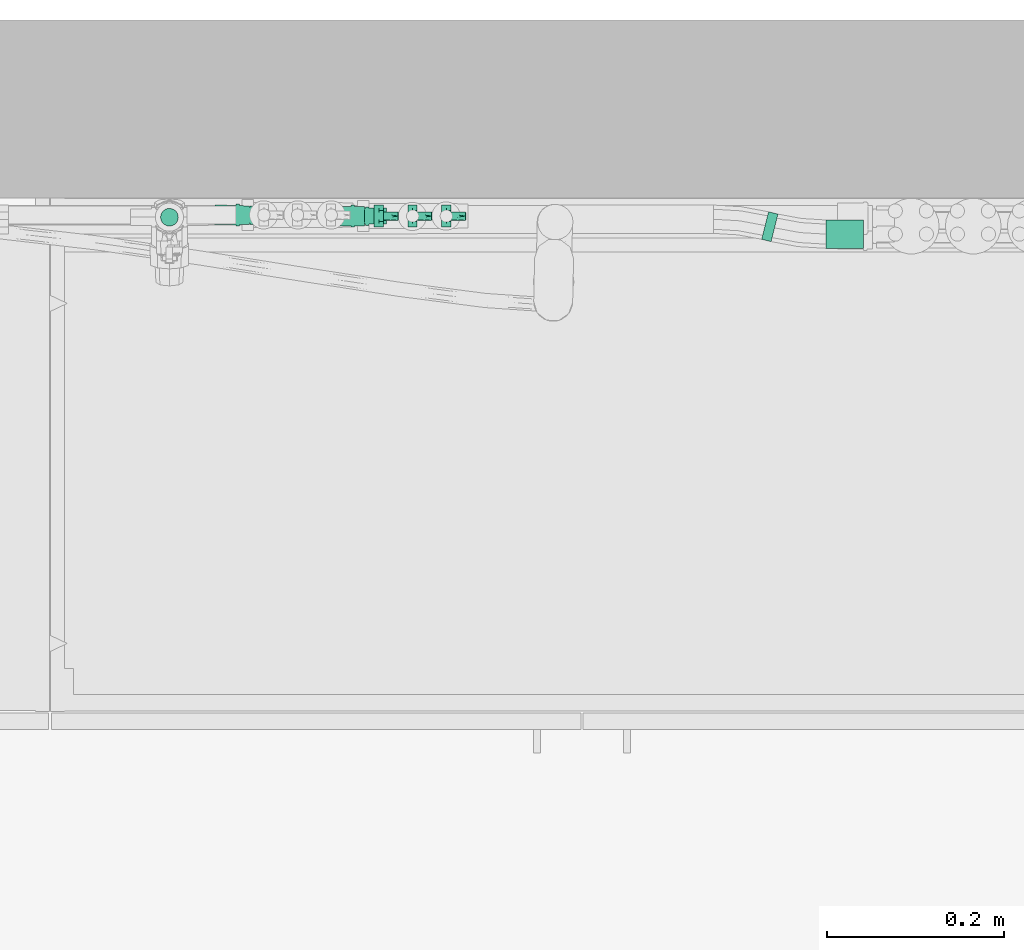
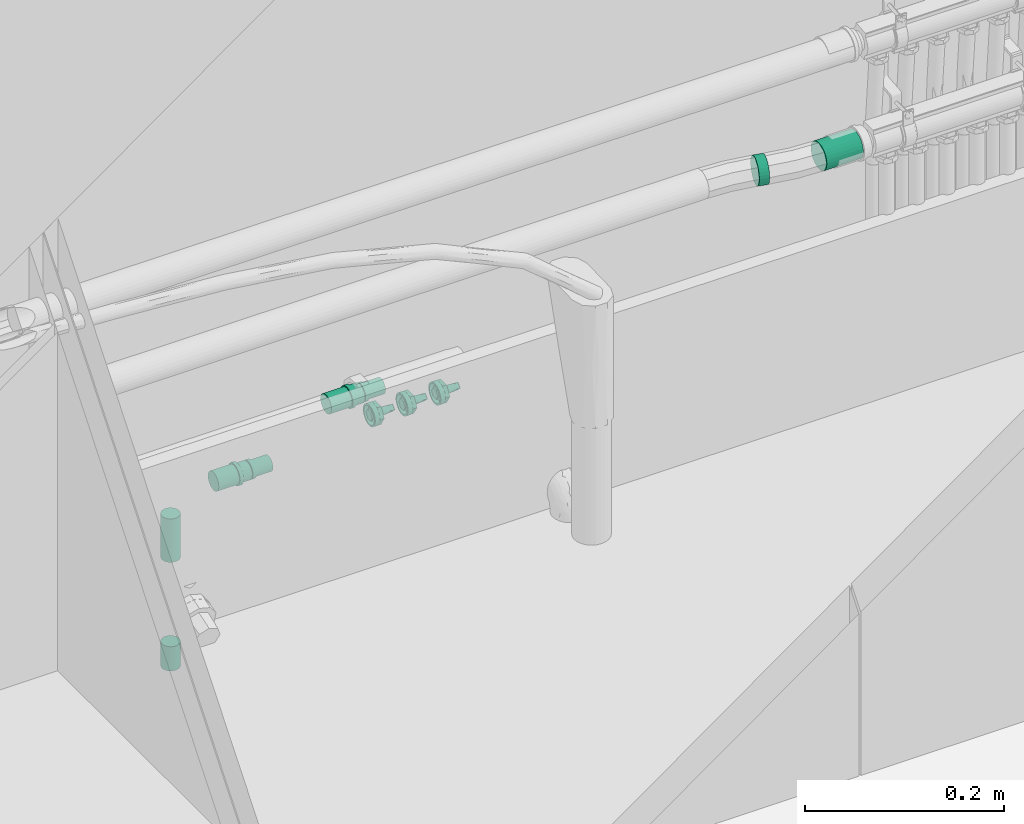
# One storey, part 23 of 30: 5 flow fittings, 4 flow segments.
"""IFC2X3 building model written with IfcOpenShell, lengths in metres."""

from ifc_helpers import new_model, entity, si_unit, converted_unit, derived_unit, direction, frame, frame_2d, origin, origin_2d_with_axis, place, context, subcontext, project, spatial, circle, extrude, faceted_brep, source, transform, mapped, material, material_list, type_object, type_shapes, element, save


model = new_model("IFC2X3")

# Units and contexts
model_context = context("Model", 3, precision=1e-05, world=origin(), true_north=direction((6.123031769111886e-17, 1.0)))
body_context = subcontext(model_context, "Body", "Model", "MODEL_VIEW")
ifc_project = project(units=[si_unit("LENGTHUNIT", "METRE"), si_unit("AREAUNIT", "SQUARE_METRE"), si_unit("VOLUMEUNIT", "CUBIC_METRE"), converted_unit("PLANEANGLEUNIT", "DEGREE", entity("IfcPlaneAngleMeasure", 0.017453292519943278), si_unit("PLANEANGLEUNIT", "RADIAN"), dimensions=[0, 0, 0, 0, 0, 0, 0]), si_unit("MASSUNIT", "GRAM", prefix="KILO"), derived_unit("MASSDENSITYUNIT", [(si_unit("MASSUNIT", "GRAM", prefix="KILO"), 1), (si_unit("LENGTHUNIT", "METRE"), -3)]), derived_unit("IONCONCENTRATIONUNIT", [(si_unit("MASSUNIT", "GRAM", prefix="KILO"), 1), (si_unit("LENGTHUNIT", "METRE"), -3)]), derived_unit("MOMENTOFINERTIAUNIT", [(si_unit("LENGTHUNIT", "METRE"), 4)]), si_unit("TIMEUNIT", "SECOND"), si_unit("FREQUENCYUNIT", "HERTZ"), si_unit("THERMODYNAMICTEMPERATUREUNIT", "DEGREE_CELSIUS"), derived_unit("THERMALTRANSMITTANCEUNIT", [(si_unit("MASSUNIT", "GRAM", prefix="KILO"), 1), (si_unit("THERMODYNAMICTEMPERATUREUNIT", "KELVIN"), -1), (si_unit("TIMEUNIT", "SECOND"), -3)]), derived_unit("THERMALCONDUCTANCEUNIT", [(si_unit("MASSUNIT", "GRAM", prefix="KILO"), 1), (si_unit("THERMODYNAMICTEMPERATUREUNIT", "KELVIN"), -1), (si_unit("TIMEUNIT", "SECOND"), -3), (si_unit("LENGTHUNIT", "METRE"), 1)]), derived_unit("VOLUMETRICFLOWRATEUNIT", [(si_unit("LENGTHUNIT", "METRE", prefix="DECI"), 3), (si_unit("TIMEUNIT", "SECOND"), -1)]), derived_unit("MASSFLOWRATEUNIT", [(si_unit("MASSUNIT", "GRAM", prefix="KILO"), 1), (si_unit("TIMEUNIT", "SECOND"), -1)]), derived_unit("ROTATIONALFREQUENCYUNIT", [(si_unit("TIMEUNIT", "SECOND"), -1)]), si_unit("ELECTRICCURRENTUNIT", "AMPERE"), si_unit("ELECTRICVOLTAGEUNIT", "VOLT"), si_unit("POWERUNIT", "WATT"), si_unit("FORCEUNIT", "NEWTON", prefix="KILO"), si_unit("ILLUMINANCEUNIT", "LUX"), si_unit("LUMINOUSFLUXUNIT", "LUMEN"), si_unit("LUMINOUSINTENSITYUNIT", "CANDELA"), si_unit("ENERGYUNIT", "JOULE"), derived_unit("USERDEFINED", [(si_unit("MASSUNIT", "GRAM", prefix="KILO"), -1), (si_unit("LENGTHUNIT", "METRE"), -2), (si_unit("TIMEUNIT", "SECOND"), 3), (si_unit("LUMINOUSFLUXUNIT", "LUMEN"), 1)]), derived_unit("USERDEFINED", [(si_unit("MASSUNIT", "GRAM", prefix="KILO"), 1), (si_unit("TIMEUNIT", "SECOND"), -3), (si_unit("LENGTHUNIT", "METRE"), 3), (si_unit("ELECTRICCURRENTUNIT", "AMPERE"), -2)]), derived_unit("SOUNDPOWERUNIT", [(si_unit("MASSUNIT", "GRAM", prefix="KILO"), 1), (si_unit("TIMEUNIT", "SECOND"), -3), (si_unit("LENGTHUNIT", "METRE"), 2)]), derived_unit("SOUNDPRESSUREUNIT", [(si_unit("MASSUNIT", "GRAM", prefix="KILO"), 1), (si_unit("LENGTHUNIT", "METRE"), -1), (si_unit("TIMEUNIT", "SECOND"), -2)]), derived_unit("LINEARVELOCITYUNIT", [(si_unit("LENGTHUNIT", "METRE"), 1), (si_unit("TIMEUNIT", "SECOND"), -1)]), si_unit("PRESSUREUNIT", "PASCAL"), derived_unit("USERDEFINED", [(si_unit("MASSUNIT", "GRAM", prefix="KILO"), 1), (si_unit("LENGTHUNIT", "METRE"), -2), (si_unit("TIMEUNIT", "SECOND"), -2)]), derived_unit("LINEARFORCEUNIT", [(si_unit("MASSUNIT", "GRAM", prefix="KILO"), 1), (si_unit("TIMEUNIT", "SECOND"), -2)]), derived_unit("PLANARFORCEUNIT", [(si_unit("MASSUNIT", "GRAM", prefix="KILO"), 1), (si_unit("LENGTHUNIT", "METRE"), -1), (si_unit("TIMEUNIT", "SECOND"), -2)]), derived_unit("SPECIFICHEATCAPACITYUNIT", [(si_unit("THERMODYNAMICTEMPERATUREUNIT", "KELVIN"), -1), (si_unit("LENGTHUNIT", "METRE"), 2), (si_unit("TIMEUNIT", "SECOND"), -2)]), derived_unit("HEATFLUXDENSITYUNIT", [(si_unit("MASSUNIT", "GRAM", prefix="KILO"), 1), (si_unit("TIMEUNIT", "SECOND"), -3)]), derived_unit("HEATINGVALUEUNIT", [(si_unit("LENGTHUNIT", "METRE"), 2), (si_unit("TIMEUNIT", "SECOND"), -2)]), derived_unit("VAPORPERMEABILITYUNIT", [(si_unit("LENGTHUNIT", "METRE"), -1), (si_unit("TIMEUNIT", "SECOND"), 1)]), derived_unit("DYNAMICVISCOSITYUNIT", [(si_unit("MASSUNIT", "GRAM", prefix="KILO"), 1), (si_unit("TIMEUNIT", "SECOND"), -1), (si_unit("LENGTHUNIT", "METRE"), -1)]), derived_unit("THERMALEXPANSIONCOEFFICIENTUNIT", [(si_unit("THERMODYNAMICTEMPERATUREUNIT", "KELVIN"), -1)]), derived_unit("MODULUSOFELASTICITYUNIT", [(si_unit("MASSUNIT", "GRAM", prefix="KILO"), 1), (si_unit("LENGTHUNIT", "METRE"), -1), (si_unit("TIMEUNIT", "SECOND"), -2)]), derived_unit("ISOTHERMALMOISTURECAPACITYUNIT", [(si_unit("MASSUNIT", "GRAM", prefix="KILO"), -1), (si_unit("LENGTHUNIT", "METRE"), 3)]), derived_unit("MOISTUREDIFFUSIVITYUNIT", [(si_unit("TIMEUNIT", "SECOND"), -1), (si_unit("LENGTHUNIT", "METRE"), 2)]), derived_unit("MASSPERLENGTHUNIT", [(si_unit("MASSUNIT", "GRAM", prefix="KILO"), 1), (si_unit("LENGTHUNIT", "METRE"), -1)]), derived_unit("THERMALRESISTANCEUNIT", [(si_unit("MASSUNIT", "GRAM", prefix="KILO"), -1), (si_unit("TIMEUNIT", "SECOND"), 3), (si_unit("THERMODYNAMICTEMPERATUREUNIT", "KELVIN"), 1)]), derived_unit("ACCELERATIONUNIT", [(si_unit("LENGTHUNIT", "METRE"), 1), (si_unit("TIMEUNIT", "SECOND"), -2)]), derived_unit("ANGULARVELOCITYUNIT", [(si_unit("TIMEUNIT", "SECOND"), -1), (si_unit("PLANEANGLEUNIT", "RADIAN"), 1)]), derived_unit("LINEARSTIFFNESSUNIT", [(si_unit("MASSUNIT", "GRAM", prefix="KILO"), 1), (si_unit("TIMEUNIT", "SECOND"), -2)]), derived_unit("WARPINGCONSTANTUNIT", [(si_unit("LENGTHUNIT", "METRE"), 6)]), derived_unit("LINEARMOMENTUNIT", [(si_unit("MASSUNIT", "GRAM", prefix="KILO"), 1), (si_unit("LENGTHUNIT", "METRE"), 1), (si_unit("TIMEUNIT", "SECOND"), -2)]), derived_unit("TORQUEUNIT", [(si_unit("MASSUNIT", "GRAM", prefix="KILO"), 1), (si_unit("LENGTHUNIT", "METRE"), 2), (si_unit("TIMEUNIT", "SECOND"), -2)])], contexts=[model_context])

# Site, building, storey
site_placement = place(None, origin())
site = spatial("IfcSite", under=ifc_project, at=site_placement, Name="Default", CompositionType="ELEMENT")
building_placement = place(site_placement, origin())
building = spatial("IfcBuilding", under=site, at=building_placement, CompositionType="ELEMENT")
storey_placement = place(building_placement, origin())
storey = spatial("IfcBuildingStorey", under=building, at=storey_placement, Name="Niveau 0", CompositionType="ELEMENT", Elevation=-1.949160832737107e-14)

# Flow segments
pipe_segment_type = type_object("IfcPipeSegmentType", Name="Canalisation:COMAP MULTISKIN - SKINPRESS PPSU", PredefinedType="NOTDEFINED")
flow_segment_1_placement = place(storey_placement, origin())
element("IfcFlowSegment", 1, at=flow_segment_1_placement, inside=storey, type_object=pipe_segment_type, Name="Canalisation:COMAP MULTISKIN - SKINPRESS PPSU", ObjectType="Canalisation:COMAP MULTISKIN - SKINPRESS PPSU", context=body_context, shape_type="SweptSolid", body=[
    extrude(circle(Radius=0.01, at=origin_2d_with_axis()), frame((-19.271248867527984, 2.846796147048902, 0.09350000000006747)), (0.0, 0.0, 1.0), 0.029749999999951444),
])
flow_segment_2_placement = place(storey_placement, origin())
element("IfcFlowSegment", 2, at=flow_segment_2_placement, inside=storey, type_object=pipe_segment_type, Name="Canalisation:COMAP MULTISKIN - SKINPRESS PPSU", ObjectType="Canalisation:COMAP MULTISKIN - SKINPRESS PPSU", context=body_context, shape_type="SweptSolid", body=[
    extrude(circle(Radius=0.01, at=origin_2d_with_axis()), frame((-19.271248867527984, 2.846796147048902, 0.2267500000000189)), (0.0, 0.0, 1.0), 0.0532499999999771),
])
flow_segment_3_placement = place(storey_placement, origin())
element("IfcFlowSegment", 3, at=flow_segment_3_placement, inside=storey, type_object=pipe_segment_type, Name="Canalisation:COMAP MULTISKIN - SKINPRESS PPSU", ObjectType="Canalisation:COMAP MULTISKIN - SKINPRESS PPSU", context=body_context, shape_type="SweptSolid", body=[
    extrude(circle(Radius=0.016, at=frame_2d((3.2486013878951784e-15, 0.0), x_axis=(1.0, 0.0))), frame((-18.52999867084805, 2.8277041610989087, 0.4705625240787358), z_axis=(1.0, 0.0, 0.0), x_axis=(0.0, 1.0, 0.0)), (0.0, 0.0, 1.0), 0.04245753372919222),
])
flow_segment_4_placement = place(storey_placement, origin())
element("IfcFlowSegment", 4, at=flow_segment_4_placement, inside=storey, type_object=pipe_segment_type, Name="Canalisation:COMAP MULTISKIN - SKINPRESS PPSU", ObjectType="Canalisation:COMAP MULTISKIN - SKINPRESS PPSU", context=body_context, shape_type="SweptSolid", body=[
    extrude(circle(Radius=0.016, at=origin_2d_with_axis()), frame((-18.58794148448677, 2.834803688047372, 0.4705625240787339), z_axis=(-0.9704186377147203, 0.2414283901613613, 0.0), x_axis=(0.2414283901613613, 0.9704186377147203, 0.0)), (0.0, 0.0, 1.0), 0.01089291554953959),
])

# Flow fittings
ifc_material_1 = material(Name="Color RGB 202-154-058")
pipe_fitting_type_1 = type_object("IfcPipeFittingType", Name="SA_Connection Piece_MEPcontent_Valsir_Pexal BRASS_Kit with Nut_Shared:14 mm x 2 mm-1/2''", PredefinedType="NOTDEFINED", material=ifc_material_1)
shared_shape_1 = source(origin(), body_context, "Body", "Brep", [
    faceted_brep([(0.0, 0.012144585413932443, -0.0032541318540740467), (0.0, 0.0125345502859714, 0.0), (0.0, 0.006267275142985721, -0.010855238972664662), (0.0, 0.008890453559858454, -0.008890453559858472), (0.0, 0.010888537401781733, -0.00628650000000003), (0.0, 0.003882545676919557, 0.0119585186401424), (0.0, 0.0013113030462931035, 0.012504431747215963), (0.0, -0.0013169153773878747, 0.012503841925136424), (0.0, -0.0038867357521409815, 0.01195715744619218), (0.0, -0.0062672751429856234, 0.010855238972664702), (0.0, 0.006267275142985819, 0.010855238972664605), (0.0, -0.006267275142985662, -0.010855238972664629), (0.0, -0.012573, 0.0), (0.0, -0.01229757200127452, -0.002617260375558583), (0.0, -0.011484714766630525, -0.005116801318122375), (0.0, -0.010170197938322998, -0.007392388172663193), (0.0, -0.008411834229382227, -0.009344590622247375), (0.0, 0.00889045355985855, 0.008890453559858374), (0.0, 0.012144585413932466, 0.0032541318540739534), (0.0, 0.01088853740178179, 0.006286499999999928), (0.0, -0.0038867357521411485, -0.011957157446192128), (0.0, -0.001316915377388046, -0.012503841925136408), (0.0, 0.0013113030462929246, -0.012504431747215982), (0.0, 0.003882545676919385, -0.011958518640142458), (0.0, -0.008411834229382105, 0.009344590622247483), (0.0, -0.010170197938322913, 0.007392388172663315), (0.0, -0.01148471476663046, 0.005116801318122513), (0.0, -0.01229757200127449, 0.0026172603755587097), (0.004999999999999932, 0.006267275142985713, -0.010855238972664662), (0.004999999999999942, 0.012534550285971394, 0.0), (0.004999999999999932, 0.0062672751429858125, 0.010855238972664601), (0.00499999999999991, -0.006267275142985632, 0.010855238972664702), (0.0049999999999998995, -0.01253455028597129, 0.0), (0.00499999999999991, -0.006267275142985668, -0.010855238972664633), (0.0, -0.009223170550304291, 0.005324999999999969), (0.0, -0.00753068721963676, 0.007530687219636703), (0.0, -0.008149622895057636, 0.004705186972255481), (0.0, -0.009089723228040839, 0.0024355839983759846), (0.0, -0.010287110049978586, 0.0027564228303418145), (0.0, -0.006654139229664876, 0.006654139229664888), (0.0, -0.005325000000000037, 0.00922317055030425), (0.0, -0.004705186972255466, 0.008149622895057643), (0.0, -0.0024355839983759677, 0.009089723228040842), (0.0, -0.0027564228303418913, 0.010287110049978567), (0.0, 0.0, 0.009410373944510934), (0.0, 0.0, 0.010650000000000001), (0.0, 0.0024355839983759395, 0.009089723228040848), (0.0, 0.002756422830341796, 0.010287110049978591), (0.0, 0.004705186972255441, 0.008149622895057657), (0.0, 0.005324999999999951, 0.0092231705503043), (0.0, 0.006654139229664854, 0.006654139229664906), (0.0, 0.007530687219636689, 0.0075306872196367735), (0.0, 0.008149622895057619, 0.0047051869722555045), (0.0, 0.00922317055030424, 0.0053250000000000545), (0.0, 0.009089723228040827, 0.0024355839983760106), (0.0, 0.01028711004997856, 0.0027564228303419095), (0.0, 0.009410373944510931, 0.0), (0.0, 0.010649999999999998, 0.0), (0.0, 0.00908972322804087, -0.002435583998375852), (0.0, 0.010287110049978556, -0.0027564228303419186), (0.0, 0.008149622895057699, -0.004705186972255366), (0.0, 0.009223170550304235, -0.005325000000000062), (0.0, 0.006654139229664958, -0.006654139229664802), (0.0, 0.007530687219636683, -0.00753068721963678), (0.0, 0.004705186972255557, -0.00814962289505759), (0.0, 0.0053249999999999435, -0.009223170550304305), (0.0, 0.0027564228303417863, -0.010287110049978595), (0.0, 0.002435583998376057, -0.009089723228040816), (0.0, 0.0, -0.010650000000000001), (0.0, 0.0, -0.009410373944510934), (0.0, -0.0027564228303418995, -0.010287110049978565), (0.0, -0.0024355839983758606, -0.00908972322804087), (0.0, -0.005325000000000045, -0.009223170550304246), (0.0, -0.004705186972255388, -0.008149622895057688), (0.0, -0.0075306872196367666, -0.007530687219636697), (0.0, -0.006654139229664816, -0.006654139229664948), (0.0, -0.009223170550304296, -0.005324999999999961), (0.0, -0.008149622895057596, -0.004705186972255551), (0.0, -0.01028711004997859, -0.0027564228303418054), (0.0, -0.009089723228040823, -0.002435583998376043), (0.0, -0.010650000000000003, 0.0), (0.0, -0.009410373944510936, 0.0), (0.004999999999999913, -0.004156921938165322, -0.002400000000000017), (0.0049999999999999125, -0.004636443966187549, -0.001242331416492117), (0.0049999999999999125, -0.004800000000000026, 0.0), (0.0049999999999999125, -0.004636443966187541, 0.0012423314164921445), (0.004999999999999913, -0.0041569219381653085, 0.0024000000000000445), (0.004999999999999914, -0.003394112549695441, -0.0033941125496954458), (0.004999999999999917, -0.002400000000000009, -0.004156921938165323), (0.004999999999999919, -0.0012423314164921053, -0.004636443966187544), (0.004999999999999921, 0.0, -0.004800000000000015), (0.004999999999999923, 0.001242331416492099, -0.004636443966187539), (0.004999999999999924, 0.002400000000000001, -0.0041569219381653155), (0.004999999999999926, 0.00339411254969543, -0.003394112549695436), (0.004999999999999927, 0.0041569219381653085, -0.0024000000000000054), (0.004999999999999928, 0.004636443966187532, -0.0012423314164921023), (0.004999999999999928, 0.004800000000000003, 0.0), (0.004999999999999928, 0.004636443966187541, 0.0012423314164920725), (0.004999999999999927, 0.004156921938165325, 0.002399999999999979), (0.004999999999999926, 0.003394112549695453, 0.003394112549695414), (0.004999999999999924, 0.002400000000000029, 0.004156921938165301), (0.004999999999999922, 0.0012423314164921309, 0.004636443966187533), (0.0049999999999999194, 0.0, 0.004800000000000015), (0.004999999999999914, -0.003394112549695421, 0.003394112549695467), (0.004999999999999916, -0.002399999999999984, 0.004156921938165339), (0.004999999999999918, -0.001242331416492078, 0.004636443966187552), (0.021999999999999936, 0.0, 0.0), (0.021999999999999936, -0.004225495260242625, 0.0), (0.021999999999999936, -0.002112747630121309, -0.0021127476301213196), (0.021999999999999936, 0.0, -0.004225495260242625), (0.021999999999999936, 0.001462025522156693, -0.0027634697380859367), (0.021999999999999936, 0.004225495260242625, 0.0), (0.02199999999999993, 0.002112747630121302, 0.0021127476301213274), (0.021999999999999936, -0.0014620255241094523, 0.0027634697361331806), (0.021999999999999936, 0.0, 0.004225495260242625), (0.021425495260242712, 0.004800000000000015, 0.0), (0.021425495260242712, 0.002400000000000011, -0.0024000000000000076), (0.021425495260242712, 0.0, -0.004800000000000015), (0.021425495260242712, -0.0024000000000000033, -0.002400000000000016), (0.021425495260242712, -0.004800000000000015, 0.0), (0.021425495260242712, -0.0024000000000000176, 0.0024000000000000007), (0.021425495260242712, 0.0, 0.004800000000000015), (0.021425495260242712, 0.0023999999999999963, 0.0024000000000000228), (-0.0017731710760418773, 0.009410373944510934, 0.0), (-0.0017731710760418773, 0.004705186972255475, -0.008149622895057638), (-0.0017731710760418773, -0.004705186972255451, -0.008149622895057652), (-0.0017731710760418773, -0.009410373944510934, 0.0), (-0.0017731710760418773, -0.004705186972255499, 0.008149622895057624), (-0.0017731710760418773, 0.004705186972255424, 0.008149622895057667), (-0.005500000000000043, -0.0031499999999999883, -0.00545596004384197), (-0.005500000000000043, -0.0063, 0.0), (-0.005500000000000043, 0.0, 0.0), (-0.005500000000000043, 0.0031500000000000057, -0.00545596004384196), (-0.005500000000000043, -0.003150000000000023, 0.005455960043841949), (-0.005500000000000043, 0.00314999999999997, 0.005455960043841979), (-0.005500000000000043, 0.0063, 0.0), (-0.005500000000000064, -0.006286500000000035, -0.010888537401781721), (-0.005500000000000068, -0.008890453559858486, -0.00889045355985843), (-0.005500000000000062, -0.005324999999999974, -0.009223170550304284), (-0.005500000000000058, -0.002756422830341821, -0.010287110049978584), (-0.005500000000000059, -0.003254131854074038, -0.012144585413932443), (-0.0055000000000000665, -0.007530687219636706, -0.007530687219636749), (-0.005500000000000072, -0.010888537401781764, -0.006286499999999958), (-0.005500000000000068, -0.00922317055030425, -0.005325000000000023), (-0.005500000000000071, -0.010287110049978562, -0.0027564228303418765), (-0.005500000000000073, -0.012144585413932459, -0.0032541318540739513), (-0.005500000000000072, -0.010649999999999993, 0.0), (-0.005500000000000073, -0.012572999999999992, 0.0), (-0.005500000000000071, -0.010287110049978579, 0.00275642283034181), (-0.005500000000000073, -0.012144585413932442, 0.0032541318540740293), (-0.005500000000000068, -0.009223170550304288, 0.005324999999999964), (-0.005500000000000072, -0.010888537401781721, 0.006286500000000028), (-0.0055000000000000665, -0.007530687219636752, 0.007530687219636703), (-0.005500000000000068, -0.008890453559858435, 0.008890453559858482), (-0.005500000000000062, -0.0053250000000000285, 0.00922317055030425), (-0.005500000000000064, -0.00628649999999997, 0.010888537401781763), (-0.005500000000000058, -0.002756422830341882, 0.010287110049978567), (-0.005500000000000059, -0.003254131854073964, 0.012144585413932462), (-0.0055000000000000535, 0.0, 0.010650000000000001), (-0.0055000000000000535, 0.0, 0.012573), (-0.005500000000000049, 0.002756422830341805, 0.010287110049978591), (-0.005500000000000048, 0.003254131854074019, 0.012144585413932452), (-0.005500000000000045, 0.00532499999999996, 0.0092231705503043), (-0.005500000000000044, 0.00628650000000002, 0.010888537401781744), (-0.005500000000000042, 0.007530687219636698, 0.0075306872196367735), (-0.00550000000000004, 0.008890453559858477, 0.008890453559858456), (-0.005500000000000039, 0.00922317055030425, 0.0053250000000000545), (-0.005500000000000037, 0.010888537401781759, 0.006286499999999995), (-0.005500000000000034, 0.012144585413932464, 0.0032541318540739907), (-0.005500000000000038, 0.010287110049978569, 0.0027564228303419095), (-0.0055000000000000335, 0.01257300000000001, 0.0), (-0.005500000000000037, 0.010650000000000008, 0.0), (-0.005500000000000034, 0.012144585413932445, -0.0032541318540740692), (-0.005500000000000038, 0.010287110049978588, -0.0027564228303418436), (-0.005500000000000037, 0.01088853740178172, -0.0062865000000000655), (-0.005500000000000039, 0.009223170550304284, -0.005324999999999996), (-0.00550000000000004, 0.008890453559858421, -0.008890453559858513), (-0.005500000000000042, 0.007530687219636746, -0.007530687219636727), (-0.005500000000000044, 0.006286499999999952, -0.010888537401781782), (-0.005500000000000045, 0.005325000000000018, -0.009223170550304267), (-0.005500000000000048, 0.0032541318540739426, -0.012144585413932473), (-0.005500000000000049, 0.0027564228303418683, -0.010287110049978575), (-0.0055000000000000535, 0.0, -0.012573), (-0.0055000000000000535, 0.0, -0.010650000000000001), (-0.003958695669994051, 0.0031500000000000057, -0.00545596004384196), (-0.003958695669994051, 0.0063, 0.0), (-0.003958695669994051, -0.0031499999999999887, -0.00545596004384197), (-0.003958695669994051, -0.0063, 0.0), (-0.003958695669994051, -0.0031500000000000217, 0.00545596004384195), (-0.003958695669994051, 0.0031499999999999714, 0.00545596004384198)], [[[0, 1, 2, 3, 4]], [[5, 6, 7, 8, 9, 10]], [[11, 12, 13, 14, 15, 16]], [[17, 10, 1, 18, 19]], [[2, 11, 20, 21, 22, 23]], [[9, 24, 25, 26, 27, 12]], [[28, 2, 1, 29]], [[29, 1, 10, 30]], [[30, 10, 9, 31]], [[31, 9, 12]], [[12, 32, 31]], [[32, 12, 11]], [[11, 33, 32]], [[34, 35, 36]], [[34, 36, 37]], [[37, 38, 34]], [[36, 35, 39]], [[40, 39, 35]], [[41, 39, 40]], [[42, 41, 40]], [[42, 40, 43]], [[42, 43, 44]], [[44, 43, 45]], [[46, 44, 45]], [[46, 45, 47]], [[48, 46, 47]], [[48, 47, 49]], [[50, 48, 49]], [[49, 51, 50]], [[51, 52, 50]], [[51, 53, 52]], [[52, 53, 54]], [[55, 54, 53]], [[54, 55, 56]], [[56, 55, 57]], [[56, 57, 58]], [[58, 57, 59]], [[58, 59, 60]], [[61, 60, 59]], [[61, 62, 60]], [[62, 61, 63]], [[64, 62, 63]], [[65, 64, 63]], [[66, 64, 65]], [[67, 64, 66]], [[67, 66, 68]], [[69, 67, 68]], [[70, 69, 68]], [[70, 71, 69]], [[71, 70, 72]], [[73, 71, 72]], [[73, 72, 74]], [[73, 74, 75]], [[74, 76, 75]], [[75, 76, 77]], [[77, 76, 78]], [[78, 79, 77]], [[80, 79, 78]], [[38, 81, 80]], [[80, 81, 79]], [[38, 37, 81]], [[33, 11, 2, 28]], [[32, 33, 82]], [[32, 82, 83]], [[84, 32, 83]], [[32, 84, 85]], [[86, 32, 85]], [[32, 86, 31]], [[82, 33, 87]], [[88, 87, 33]], [[89, 88, 33]], [[90, 89, 33]], [[33, 28, 90]], [[91, 90, 28]], [[92, 91, 28]], [[93, 92, 28]], [[28, 94, 93]], [[29, 94, 28]], [[95, 94, 29]], [[29, 96, 95]], [[29, 97, 96]], [[97, 29, 98]], [[30, 98, 29]], [[98, 30, 99]], [[100, 99, 30]], [[100, 30, 101]], [[102, 101, 30]], [[102, 30, 31]], [[86, 103, 31]], [[103, 104, 31]], [[104, 105, 31]], [[31, 105, 102]], [[106, 107, 108]], [[106, 108, 109]], [[106, 109, 110]], [[106, 110, 111]], [[106, 111, 112]], [[106, 113, 107]], [[106, 114, 113]], [[106, 112, 114]], [[96, 115, 95]], [[93, 115, 116, 117]], [[115, 94, 95]], [[93, 94, 115]], [[91, 92, 117]], [[93, 117, 92]], [[117, 90, 91]], [[90, 117, 89]], [[117, 87, 88]], [[88, 89, 117]], [[87, 117, 118, 119]], [[82, 87, 119]], [[84, 83, 119]], [[82, 119, 83]], [[84, 119, 85]], [[103, 119, 120, 121]], [[119, 86, 85]], [[103, 86, 119]], [[105, 104, 121]], [[103, 121, 104]], [[121, 102, 105]], [[102, 121, 101]], [[121, 99, 100]], [[100, 101, 121]], [[99, 121, 122, 115]], [[98, 99, 115]], [[96, 97, 115]], [[98, 115, 97]], [[123, 56, 58]], [[58, 60, 123]], [[62, 124, 60]], [[60, 124, 123]], [[124, 62, 64]], [[124, 67, 69]], [[67, 124, 64]], [[125, 69, 71]], [[71, 73, 125]], [[75, 125, 73]], [[125, 77, 126]], [[77, 125, 75]], [[79, 81, 126]], [[79, 126, 77]], [[69, 125, 124]], [[126, 81, 37]], [[37, 36, 126]], [[39, 127, 36]], [[36, 127, 126]], [[127, 39, 41]], [[127, 42, 44]], [[42, 127, 41]], [[128, 44, 46]], [[46, 48, 128]], [[50, 128, 48]], [[128, 52, 123]], [[52, 128, 50]], [[54, 56, 123]], [[54, 123, 52]], [[44, 128, 127]], [[129, 130, 131]], [[131, 132, 129]], [[130, 133, 131]], [[134, 131, 133]], [[131, 134, 135]], [[131, 135, 132]], [[129, 130, 131]], [[131, 132, 129]], [[130, 133, 131]], [[134, 131, 133]], [[131, 134, 135]], [[131, 135, 132]], [[136, 137, 138]], [[136, 138, 139]], [[139, 140, 136]], [[138, 137, 141]], [[142, 141, 137]], [[143, 141, 142]], [[144, 143, 142]], [[144, 142, 145]], [[144, 145, 146]], [[146, 145, 147]], [[148, 146, 147]], [[148, 147, 149]], [[150, 148, 149]], [[150, 149, 151]], [[152, 150, 151]], [[151, 153, 152]], [[153, 154, 152]], [[153, 155, 154]], [[154, 155, 156]], [[157, 156, 155]], [[156, 157, 158]], [[158, 157, 159]], [[158, 159, 160]], [[160, 159, 161]], [[160, 161, 162]], [[163, 162, 161]], [[163, 164, 162]], [[164, 163, 165]], [[166, 164, 165]], [[167, 166, 165]], [[168, 166, 167]], [[169, 166, 168]], [[169, 168, 170]], [[171, 169, 170]], [[172, 171, 170]], [[172, 173, 171]], [[173, 172, 174]], [[175, 173, 174]], [[175, 174, 176]], [[175, 176, 177]], [[176, 178, 177]], [[177, 178, 179]], [[179, 178, 180]], [[180, 181, 179]], [[182, 181, 180]], [[140, 183, 182]], [[182, 183, 181]], [[140, 139, 183]], [[117, 116, 115, 111, 110, 109]], [[118, 117, 109, 108, 107, 119]], [[121, 120, 119, 107, 113, 114]], [[122, 121, 114, 112, 111, 115]], [[123, 124, 184, 185]], [[124, 125, 186, 184]], [[125, 126, 187, 186]], [[126, 127, 188, 187]], [[127, 128, 189, 188]], [[128, 123, 185, 189]], [[185, 184, 132, 135]], [[184, 186, 129, 132]], [[186, 187, 130, 129]], [[187, 188, 133, 130]], [[188, 189, 134, 133]], [[189, 185, 135, 134]], [[57, 171, 173, 59]], [[59, 173, 175, 61]], [[65, 63, 177, 179]], [[175, 177, 63, 61]], [[66, 65, 179, 181]], [[183, 68, 66, 181]], [[70, 139, 138, 72]], [[72, 138, 141, 74]], [[78, 76, 143, 144]], [[141, 143, 76, 74]], [[80, 78, 144, 146]], [[70, 68, 183, 139]], [[80, 146, 148, 38]], [[38, 148, 150, 34]], [[40, 35, 152, 154]], [[150, 152, 35, 34]], [[43, 40, 154, 156]], [[158, 45, 43, 156]], [[47, 160, 162, 49]], [[49, 162, 164, 51]], [[55, 53, 166, 169]], [[164, 166, 53, 51]], [[57, 55, 169, 171]], [[47, 45, 158, 160]], [[168, 1, 170]], [[167, 19, 18, 168]], [[17, 165, 163]], [[163, 161, 5]], [[167, 165, 17, 19]], [[159, 6, 161]], [[18, 1, 168]], [[5, 10, 163]], [[17, 163, 10]], [[6, 5, 161]], [[159, 7, 6]], [[155, 8, 157]], [[153, 24, 155]], [[26, 151, 149]], [[149, 147, 27]], [[153, 151, 25]], [[12, 27, 147]], [[155, 9, 8]], [[8, 7, 157]], [[26, 25, 151]], [[24, 153, 25]], [[24, 9, 155]], [[27, 26, 149]], [[157, 7, 159]], [[145, 13, 147]], [[142, 14, 145]], [[16, 137, 136]], [[136, 140, 20]], [[21, 140, 182]], [[142, 137, 15]], [[21, 20, 140]], [[145, 14, 13]], [[13, 12, 147]], [[11, 16, 136]], [[15, 137, 16]], [[15, 14, 142]], [[20, 11, 136]], [[180, 22, 182]], [[178, 23, 180]], [[3, 176, 174, 4]], [[174, 172, 0, 4]], [[178, 176, 2]], [[170, 0, 172]], [[178, 2, 23]], [[23, 22, 180]], [[2, 176, 3]], [[170, 1, 0]], [[182, 22, 21]]]),
])
type_shapes(pipe_fitting_type_1, [shared_shape_1])
for number, where in (
    (5, (-18.996541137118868, 2.848101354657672, 0.31850000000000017)),
    (6, (-18.958541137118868, 2.848101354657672, 0.31850000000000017)),
    (7, (-19.034541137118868, 2.848101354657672, 0.31850000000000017)),
):
    element("IfcFlowFitting", number, at=place(storey_placement, frame(where)), inside=storey, type_object=pipe_fitting_type_1, material=ifc_material_1, Name="SA_Connection Piece_MEPcontent_Valsir_Pexal BRASS_Kit with Nut_Shared:14 mm x 2 mm-1/2''", ObjectType="SA_Connection Piece_MEPcontent_Valsir_Pexal BRASS_Kit with Nut_Shared:14 mm x 2 mm-1/2''", context=body_context, shape_type="MappedRepresentation", body=[
        mapped(shared_shape_1, transform((0.0, 0.0, 0.0), scale=1.0)),
    ])
ifc_material_2 = material(Name="Bague blanche VisuControl")
ifc_material_3 = material(Name="Inox")
ifc_material_4 = material(Name="PPSU")
ifc_material_list = material_list([ifc_material_2, ifc_material_3, ifc_material_4])
pipe_fitting_type_2 = type_object("IfcPipeFittingType", Name="COMAP - SKINPRESS ppsu - Manchon_Réduit_9240W:Manchon_Réduit_9240W", PredefinedType="NOTDEFINED", material=ifc_material_list)
shared_shape_2 = source(origin(), body_context, "Body", "SweptSolid", [
    extrude(circle(Radius=0.012499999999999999, at=frame_2d((9.65640692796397e-19, -2.0194307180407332e-17), x_axis=(1.0, 0.0))), frame((-0.01000000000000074, 0.0, 0.0), z_axis=(1.0, 0.0, 0.0), x_axis=(0.0, 1.0, 0.0)), (0.0, 0.0, 1.0), 0.004),
    extrude(circle(Radius=0.011, at=frame_2d((-4.99853699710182e-19, -1.777099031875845e-17), x_axis=(1.0, 0.0))), frame((-0.034000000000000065, 0.0, 0.0), z_axis=(1.0, 0.0, 0.0), x_axis=(0.0, 1.0, 0.0)), (0.0, 0.0, 1.0), 0.029),
    extrude(circle(Radius=0.0105, at=frame_2d((-3.812600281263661e-19, -4.727230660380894e-17), x_axis=(1.0, 0.0))), frame((0.006000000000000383, 0.0, 0.0), z_axis=(1.0, 0.0, 0.0), x_axis=(0.0, -1.0, 0.0)), (0.0, 0.0, 1.0), 0.004000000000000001),
    extrude(circle(Radius=0.009000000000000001, at=frame_2d((3.542627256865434e-19, -4.051911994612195e-17), x_axis=(1.0, 0.0))), frame((0.005000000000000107, 0.0, 0.0), z_axis=(1.0, 0.0, 0.0), x_axis=(0.0, -1.0, 0.0)), (0.0, 0.0, 1.0), 0.025),
    extrude(circle(Radius=0.010499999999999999, at=frame_2d((0.0, -1.696321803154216e-17), x_axis=(1.0, 0.0))), frame((-0.005000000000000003, 0.0, 0.0), z_axis=(1.0, 0.0, 0.0), x_axis=(0.0, 1.0, 0.0)), (0.0, 0.0, 1.0), 0.010000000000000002),
])
type_shapes(pipe_fitting_type_2, [shared_shape_2])
flow_fitting_1_placement = place(storey_placement, frame((-19.186041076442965, 2.8492613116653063, 0.30000000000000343), z_axis=(0.0, 0.0, 1.0), x_axis=(0.9999939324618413, -0.0034835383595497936, 0.0)))
element("IfcFlowFitting", 8, at=flow_fitting_1_placement, inside=storey, type_object=pipe_fitting_type_2, material=ifc_material_list, Name="COMAP - SKINPRESS ppsu - Manchon_Réduit_9240W:Manchon_Réduit_9240W", ObjectType="COMAP - SKINPRESS ppsu - Manchon_Réduit_9240W:Manchon_Réduit_9240W", context=body_context, shape_type="MappedRepresentation", body=[
    mapped(shared_shape_2, transform((0.0, 0.0, 0.0), scale=1.0)),
])
pipe_fitting_type_3 = type_object("IfcPipeFittingType", Name="COMAP - SKINPRESS ppsu - Manchon_Réduit_9240W:Manchon_Réduit_9240W", PredefinedType="NOTDEFINED", material=ifc_material_list)
shared_shape_3 = source(origin(), body_context, "Body", "SweptSolid", [
    extrude(circle(Radius=0.0105, at=frame_2d((6.058315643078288e-19, -1.696321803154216e-17), x_axis=(1.0, 0.0))), frame((-0.01000000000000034, 0.0, 0.0), z_axis=(1.0, 0.0, 0.0), x_axis=(0.0, 1.0, 0.0)), (0.0, 0.0, 1.0), 0.004),
    extrude(circle(Radius=0.009000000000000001, at=frame_2d((4.420736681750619e-19, -1.453990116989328e-17), x_axis=(1.0, 0.0))), frame((-0.03000000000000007, 0.0, 0.0), z_axis=(1.0, 0.0, 0.0), x_axis=(0.0, 1.0, 0.0)), (0.0, 0.0, 1.0), 0.025),
    extrude(circle(Radius=0.012499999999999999, at=frame_2d((5.588957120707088e-19, -5.627655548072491e-17), x_axis=(1.0, 0.0))), frame((0.006000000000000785, 0.0, 0.0), z_axis=(1.0, 0.0, 0.0), x_axis=(0.0, -1.0, 0.0)), (0.0, 0.0, 1.0), 0.004),
    extrude(circle(Radius=0.011, at=frame_2d((2.369310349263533e-19, -4.9523368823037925e-17), x_axis=(1.0, 0.0))), frame((0.005000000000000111, 0.0, 0.0), z_axis=(1.0, 0.0, 0.0), x_axis=(0.0, -1.0, 0.0)), (0.0, 0.0, 1.0), 0.029),
    extrude(circle(Radius=0.011, at=frame_2d((0.0, -1.777099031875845e-17), x_axis=(1.0, 0.0))), frame((-0.005000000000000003, 0.0, 0.0), z_axis=(1.0, 0.0, 0.0), x_axis=(0.0, 1.0, 0.0)), (0.0, 0.0, 1.0), 0.010000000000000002),
])
type_shapes(pipe_fitting_type_3, [shared_shape_3])
flow_fitting_2_placement = place(storey_placement, frame((-19.05604113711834, 2.848101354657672, 0.35), z_axis=(0.0, 0.0, 1.0), x_axis=(-1.0, 0.0, 0.0)))
element("IfcFlowFitting", 9, at=flow_fitting_2_placement, inside=storey, type_object=pipe_fitting_type_3, material=ifc_material_list, Name="COMAP - SKINPRESS ppsu - Manchon_Réduit_9240W:Manchon_Réduit_9240W", ObjectType="COMAP - SKINPRESS ppsu - Manchon_Réduit_9240W:Manchon_Réduit_9240W", context=body_context, shape_type="MappedRepresentation", body=[
    mapped(shared_shape_3, transform((0.0, 0.0, 0.0), scale=1.0)),
])

save(model, "model.ifc")
